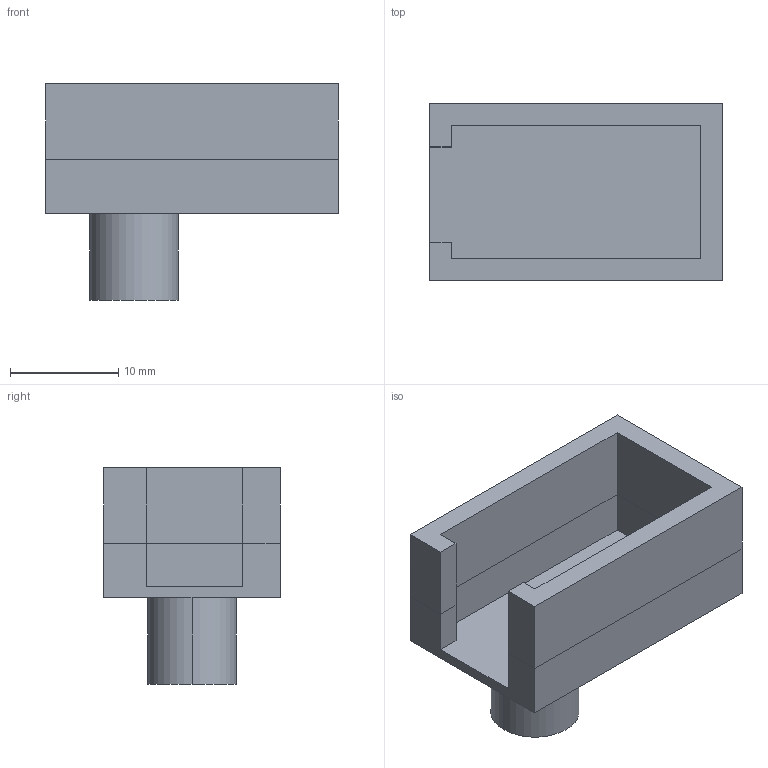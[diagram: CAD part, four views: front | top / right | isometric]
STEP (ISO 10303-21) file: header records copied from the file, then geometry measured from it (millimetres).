
FILE_DESCRIPTION(/* description */ (''),/* implementation_level */ '2;1');
FILE_NAME(/* name */ 'Base Bottom Test - Ball and Socket Joint V5',/* time_stamp */ '2025-06-02T10:04:26-04:00',/* author */ (''),/* organization */ (''),/* preprocessor_version */ 'ST-DEVELOPER v19.2',/* originating_system */ 'Rhino 8.19',/* authorisation */ '');
FILE_SCHEMA (('CONFIG_CONTROL_DESIGN'));
Length unit declared in the file: millimetre
Products named in the file (1): Document
Bounding box: 27 x 16.3 x 20 mm (x, y, z)
Volume: 2393 mm3; surface area: 2751.2 mm2
Topology: 1 solids, 1 shells, 30 faces, 67 edges, 41 vertices
Faces by surface type: plane 28, cylinder 2
Entity records: 812 total; most frequent: CARTESIAN_POINT 210, ORIENTED_EDGE 134, EDGE_CURVE 67, B_SPLINE_CURVE_WITH_KNOTS 60, DIRECTION 44, VERTEX_POINT 41, AXIS2_PLACEMENT_3D 37, EDGE_LOOP 32
